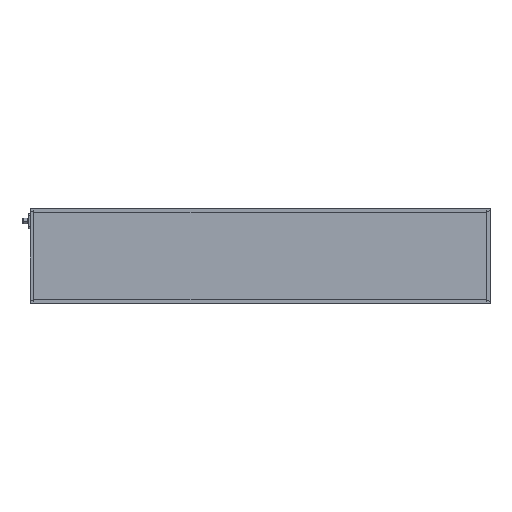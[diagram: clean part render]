
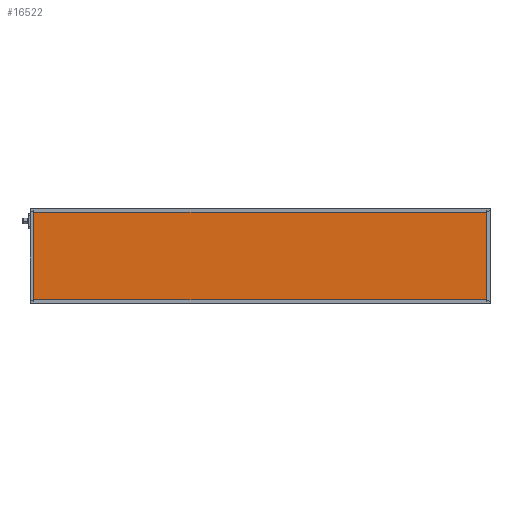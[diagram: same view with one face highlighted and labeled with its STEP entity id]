
A CAD part, top view. The second image highlights one B-rep face of the part: STEP entity #16522.
In plain terms, the highlighted planar face has unit normal (0, 0, 1).
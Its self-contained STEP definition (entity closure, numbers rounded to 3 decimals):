
#634 = CARTESIAN_POINT ( 'NONE',  ( 0., 0., 41.85 ) ) ;
#676 = EDGE_CURVE ( 'NONE', #11199, #3029, #2214, .T. ) ;
#1222 = LINE ( 'NONE', #14301, #16591 ) ;
#1849 = LINE ( 'NONE', #11431, #14482 ) ;
#1891 = EDGE_CURVE ( 'NONE', #5697, #11199, #14680, .T. ) ;
#2139 = CARTESIAN_POINT ( 'NONE',  ( 4., 4., 41.85 ) ) ;
#2214 = LINE ( 'NONE', #11207, #6875 ) ;
#3029 = VERTEX_POINT ( 'NONE', #15286 ) ;
#3073 = DIRECTION ( 'NONE',  ( 0., 0., -1. ) ) ;
#3941 = VECTOR ( 'NONE', #15904, 1000. ) ;
#4218 = ORIENTED_EDGE ( 'NONE', *, *, #676, .T. ) ;
#5062 = EDGE_CURVE ( 'NONE', #3029, #10874, #1849, .T. ) ;
#5168 = DIRECTION ( 'NONE',  ( -1., 0., 0. ) ) ;
#5493 = ORIENTED_EDGE ( 'NONE', *, *, #14483, .T. ) ;
#5617 = FACE_OUTER_BOUND ( 'NONE', #12243, .T. ) ;
#5697 = VERTEX_POINT ( 'NONE', #13577 ) ;
#6211 = AXIS2_PLACEMENT_3D ( 'NONE', #634, #3073, #9625 ) ;
#6875 = VECTOR ( 'NONE', #15207, 1000. ) ;
#8405 = PLANE ( 'NONE',  #6211 ) ;
#8576 = DIRECTION ( 'NONE',  ( 0., 1., 0. ) ) ;
#9625 = DIRECTION ( 'NONE',  ( -1., 0., 0. ) ) ;
#10874 = VERTEX_POINT ( 'NONE', #11915 ) ;
#11199 = VERTEX_POINT ( 'NONE', #2139 ) ;
#11207 = CARTESIAN_POINT ( 'NONE',  ( 0., 4., 41.85 ) ) ;
#11431 = CARTESIAN_POINT ( 'NONE',  ( 996., 0., 41.85 ) ) ;
#11816 = CARTESIAN_POINT ( 'NONE',  ( 4., 0., 41.85 ) ) ;
#11915 = CARTESIAN_POINT ( 'NONE',  ( 996., 196., 41.85 ) ) ;
#12243 = EDGE_LOOP ( 'NONE', ( #16939, #5493, #17122, #4218 ) ) ;
#13577 = CARTESIAN_POINT ( 'NONE',  ( 4., 196., 41.85 ) ) ;
#14301 = CARTESIAN_POINT ( 'NONE',  ( 0., 196., 41.85 ) ) ;
#14482 = VECTOR ( 'NONE', #8576, 1000. ) ;
#14483 = EDGE_CURVE ( 'NONE', #10874, #5697, #1222, .T. ) ;
#14680 = LINE ( 'NONE', #11816, #3941 ) ;
#15207 = DIRECTION ( 'NONE',  ( 1., 0., 0. ) ) ;
#15286 = CARTESIAN_POINT ( 'NONE',  ( 996., 4., 41.85 ) ) ;
#15904 = DIRECTION ( 'NONE',  ( 0., -1., 0. ) ) ;
#16522 = ADVANCED_FACE ( 'NONE', ( #5617 ), #8405, .F. ) ;
#16591 = VECTOR ( 'NONE', #5168, 1000. ) ;
#16939 = ORIENTED_EDGE ( 'NONE', *, *, #5062, .T. ) ;
#17122 = ORIENTED_EDGE ( 'NONE', *, *, #1891, .T. ) ;
